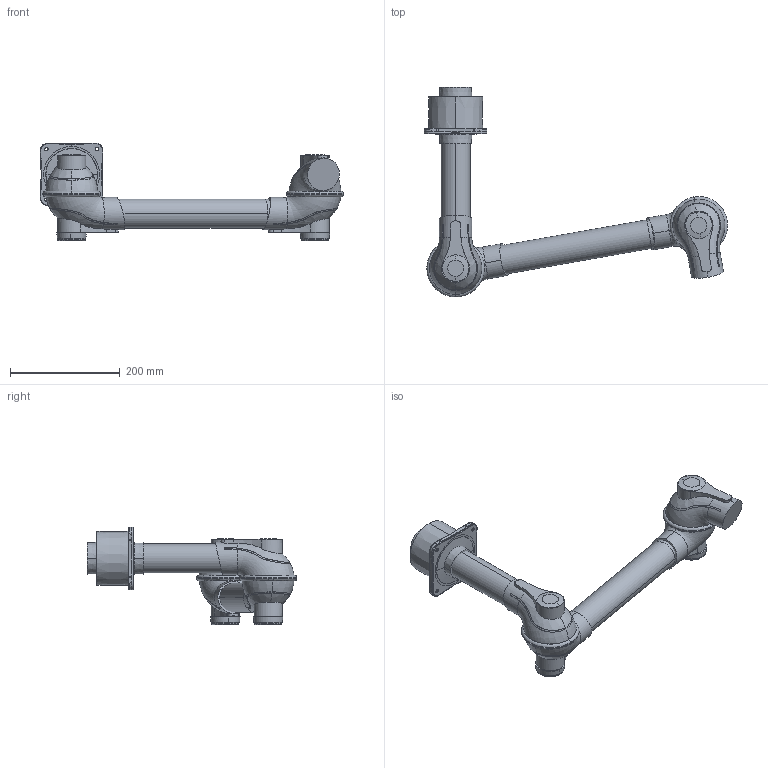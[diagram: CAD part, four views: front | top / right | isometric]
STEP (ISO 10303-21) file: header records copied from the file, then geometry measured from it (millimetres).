
FILE_DESCRIPTION((''),'2;1');
FILE_NAME('102220','2015-09-30T',('Tomas Bellgran'),(''),'PRO/ENGINEER BY PARAMETRIC TECHNOLOGY CORPORATION, 2013410','PRO/ENGINEER BY PARAMETRIC TECHNOLOGY CORPORATION, 2013410','');
FILE_SCHEMA(('AUTOMOTIVE_DESIGN { 1 0 10303 214 1 1 1 1 }'));
Length unit declared in the file: millimetre
Products named in the file (11): 100350; 102161; 102200; 102176; 9933603; 102162; 102168; 105-5481; 101156; 102177; 102220
Assembly tree (14 placements, depth 4):
  102220
    102176
      100350
      102161
      102200
    9933603
    102168
      102162
      102200
    101156
      105-5481
    102177
      102200  x2
      101156
        105-5481
Bounding box: 552.56 x 382.4 x 178.01 mm (x, y, z)
Volume: 3957002.3 mm3; surface area: 348224.1 mm2
Topology: 10 solids, 10 shells, 505 faces, 1212 edges, 738 vertices
Faces by surface type: bspline 192, plane 129, cone 100, cylinder 46, torus 24, sphere 14
Entity records: 27341 total; most frequent: CARTESIAN_POINT 13700, ORIENTED_EDGE 1504, DIRECTION 1026, PRESENTATION_STYLE_ASSIGNMENT 1011, STYLED_ITEM 981, CURVE_STYLE 752, EDGE_CURVE 752, PROPERTY_DEFINITION 501
